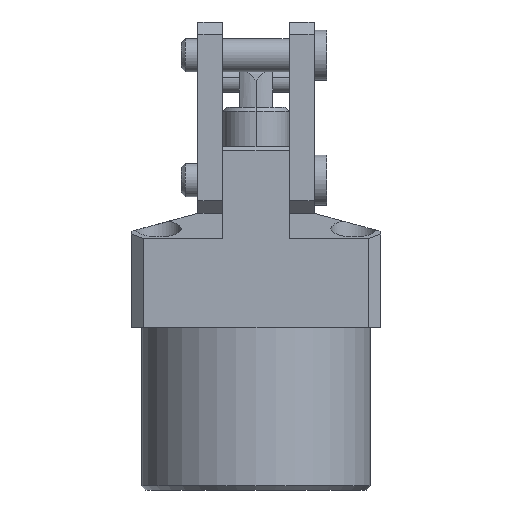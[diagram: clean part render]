
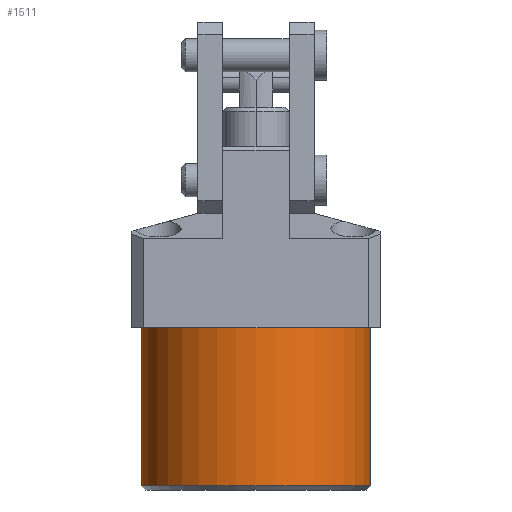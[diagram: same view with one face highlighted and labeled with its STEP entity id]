
A CAD part, front view. The second image highlights one B-rep face of the part: STEP entity #1511.
In plain terms, the highlighted cylindrical face has radius 27.5 mm (diameter 55 mm), a partial arc.
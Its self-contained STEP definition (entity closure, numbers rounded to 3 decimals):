
#1156 = CARTESIAN_POINT ( 'NONE',  ( 27.5, 0., 0. ) ) ;
#1511 = ADVANCED_FACE ( 'NONE', ( #7268 ), #19821, .T. ) ;
#1580 = CARTESIAN_POINT ( 'NONE',  ( 27.5, 0., -39. ) ) ;
#2365 = EDGE_CURVE ( 'NONE', #11128, #6405, #4350, .T. ) ;
#2450 = CARTESIAN_POINT ( 'NONE',  ( -27.5, 0., -38. ) ) ;
#2566 = ORIENTED_EDGE ( 'NONE', *, *, #10888, .T. ) ;
#4350 = LINE ( 'NONE', #9997, #8325 ) ;
#5032 = EDGE_CURVE ( 'NONE', #17228, #6405, #16306, .T. ) ;
#5272 = DIRECTION ( 'NONE',  ( 0., 0., -1. ) ) ;
#5346 = ORIENTED_EDGE ( 'NONE', *, *, #5032, .T. ) ;
#6405 = VERTEX_POINT ( 'NONE', #12039 ) ;
#7261 = CARTESIAN_POINT ( 'NONE',  ( 0., 0., -39. ) ) ;
#7268 = FACE_OUTER_BOUND ( 'NONE', #18130, .T. ) ;
#8255 = DIRECTION ( 'NONE',  ( 0., 0., 1. ) ) ;
#8325 = VECTOR ( 'NONE', #11704, 1000. ) ;
#8555 = EDGE_CURVE ( 'NONE', #11128, #12104, #21068, .T. ) ;
#8593 = AXIS2_PLACEMENT_3D ( 'NONE', #18480, #8255, #20197 ) ;
#9997 = CARTESIAN_POINT ( 'NONE',  ( -27.5, 0., -39. ) ) ;
#10433 = AXIS2_PLACEMENT_3D ( 'NONE', #15508, #5272, #17205 ) ;
#10888 = EDGE_CURVE ( 'NONE', #12104, #17228, #20814, .T. ) ;
#11128 = VERTEX_POINT ( 'NONE', #2450 ) ;
#11704 = DIRECTION ( 'NONE',  ( 0., 0., 1. ) ) ;
#11745 = VECTOR ( 'NONE', #11833, 1000. ) ;
#11833 = DIRECTION ( 'NONE',  ( 0., 0., 1. ) ) ;
#11954 = AXIS2_PLACEMENT_3D ( 'NONE', #7261, #20926, #15778 ) ;
#12039 = CARTESIAN_POINT ( 'NONE',  ( -27.5, 0., 0. ) ) ;
#12104 = VERTEX_POINT ( 'NONE', #15982 ) ;
#15508 = CARTESIAN_POINT ( 'NONE',  ( 0., 0., 0. ) ) ;
#15778 = DIRECTION ( 'NONE',  ( 1., 0., 0. ) ) ;
#15982 = CARTESIAN_POINT ( 'NONE',  ( 27.5, 0., -38. ) ) ;
#16306 = CIRCLE ( 'NONE', #10433, 27.5 ) ;
#17205 = DIRECTION ( 'NONE',  ( 1., 0., 0. ) ) ;
#17228 = VERTEX_POINT ( 'NONE', #1156 ) ;
#18130 = EDGE_LOOP ( 'NONE', ( #18416, #19005, #2566, #5346 ) ) ;
#18416 = ORIENTED_EDGE ( 'NONE', *, *, #2365, .F. ) ;
#18480 = CARTESIAN_POINT ( 'NONE',  ( 0., 0., -38. ) ) ;
#19005 = ORIENTED_EDGE ( 'NONE', *, *, #8555, .T. ) ;
#19821 = CYLINDRICAL_SURFACE ( 'NONE', #11954, 27.5 ) ;
#20197 = DIRECTION ( 'NONE',  ( -1., 0., 0. ) ) ;
#20814 = LINE ( 'NONE', #1580, #11745 ) ;
#20926 = DIRECTION ( 'NONE',  ( 0., 0., 1. ) ) ;
#21068 = CIRCLE ( 'NONE', #8593, 27.5 ) ;
